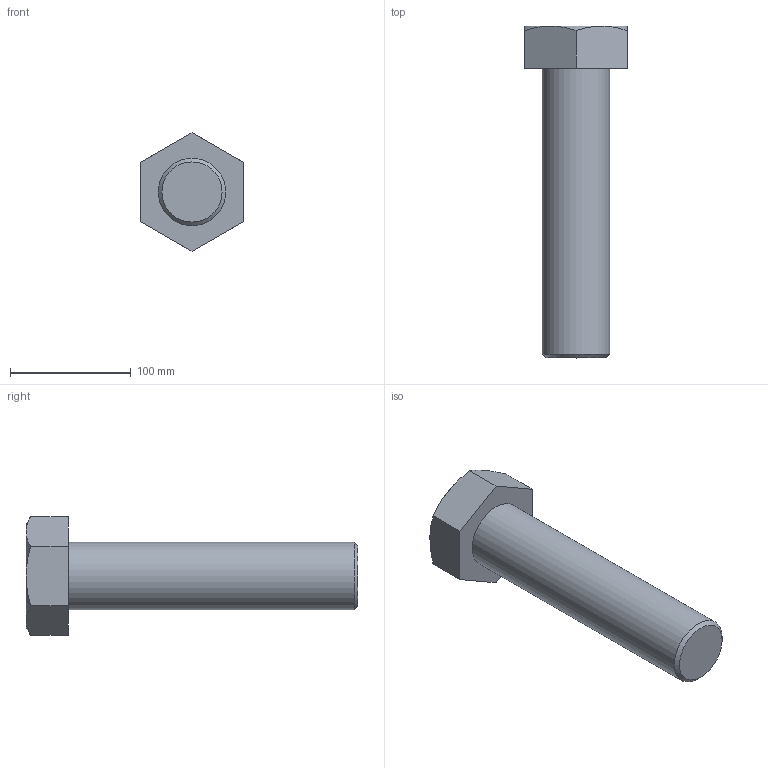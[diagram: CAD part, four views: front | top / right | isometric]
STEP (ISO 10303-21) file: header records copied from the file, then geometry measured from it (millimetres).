
FILE_DESCRIPTION(/* description */ (''),/* implementation_level */ '2;1');
FILE_NAME(/* name */ 'C:\Users\unitec\Documents\Inventor\各種小物\JIS\JIS B 1180 六角ボルト 等級C\hbc56\M56x240.stp',/* time_stamp */ '2015-02-13T15:00:25+09:00',/* author */ ('unitec'),/* organization */ (''),/* preprocessor_version */ 'ST-DEVELOPER v15.2',/* originating_system */ 'Autodesk Inventor 2014',/* authorisation */ '');
FILE_SCHEMA (('AUTOMOTIVE_DESIGN { 1 0 10303 214 3 1 1 }'));
Length unit declared in the file: millimetre
Products named in the file (1): M56x240
Bounding box: 85 x 275 x 98.15 mm (x, y, z)
Volume: 808652.8 mm3; surface area: 64420.9 mm2
Topology: 1 solids, 1 shells, 17 faces, 35 edges, 21 vertices
Faces by surface type: plane 9, cone 7, cylinder 1
Full cylindrical faces by diameter (mm): 56 x1
Entity records: 441 total; most frequent: CARTESIAN_POINT 96, ORIENTED_EDGE 66, DIRECTION 66, EDGE_CURVE 33, AXIS2_PLACEMENT_3D 27, VERTEX_POINT 21, EDGE_LOOP 20, ADVANCED_FACE 17
